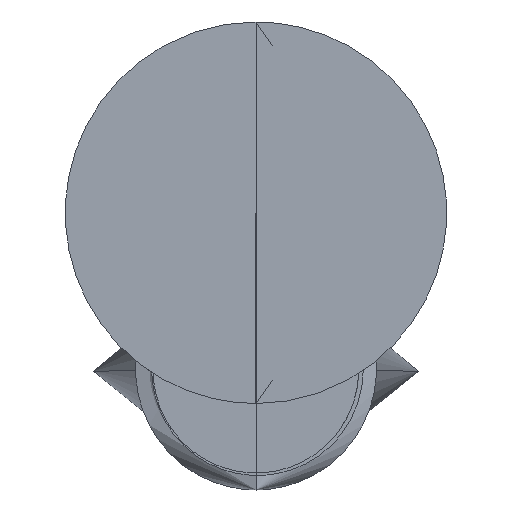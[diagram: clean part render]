
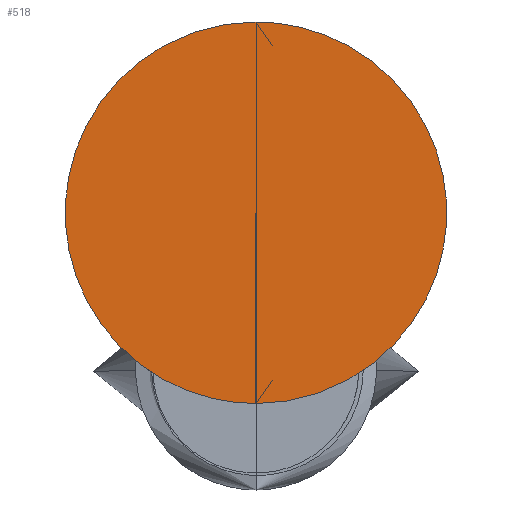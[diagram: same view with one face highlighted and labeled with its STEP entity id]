
A CAD part, top view. The second image highlights one B-rep face of the part: STEP entity #518.
In plain terms, the highlighted planar face has unit normal (0, 0, 1).
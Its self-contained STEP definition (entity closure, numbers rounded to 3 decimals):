
#518=ADVANCED_FACE($,(#663),#2471,.T.);
#663=FACE_OUTER_BOUND($,#820,.T.);
#820=EDGE_LOOP($,(#1367,#1368));
#1367=ORIENTED_EDGE($,*,*,#1888,.T.);
#1368=ORIENTED_EDGE($,*,*,#1889,.T.);
#1888=EDGE_CURVE($,#2390,#2391,#2826,.T.);
#1889=EDGE_CURVE($,#2391,#2390,#2827,.T.);
#2390=VERTEX_POINT($,#7784);
#2391=VERTEX_POINT($,#7785);
#2471=PLANE($,#3561);
#2826=(
BOUNDED_CURVE()
B_SPLINE_CURVE(2,(#7773,#7774,#7775,#7776,#7777),.UNSPECIFIED.,.F.,.F.)
B_SPLINE_CURVE_WITH_KNOTS((3,2,3),(-17.047,-12.785,-8.523),
.UNSPECIFIED.)
CURVE()
GEOMETRIC_REPRESENTATION_ITEM()
RATIONAL_B_SPLINE_CURVE((1.,0.707,1.,0.707,
1.))
REPRESENTATION_ITEM($)
);
#2827=(
BOUNDED_CURVE()
B_SPLINE_CURVE(2,(#7778,#7779,#7780,#7781,#7782),.UNSPECIFIED.,.F.,.F.)
B_SPLINE_CURVE_WITH_KNOTS((3,2,3),(-8.523,-4.262,0.),
.UNSPECIFIED.)
CURVE()
GEOMETRIC_REPRESENTATION_ITEM()
RATIONAL_B_SPLINE_CURVE((1.,0.707,1.,0.707,
1.))
REPRESENTATION_ITEM($)
);
#3561=AXIS2_PLACEMENT_3D($,#7783,#3663,$);
#3663=DIRECTION($,(0.,0.,1.));
#7773=CARTESIAN_POINT($,(0.,156.035,601.608));
#7774=CARTESIAN_POINT($,(-65.819,156.035,601.608));
#7775=CARTESIAN_POINT($,(-65.819,90.217,601.608));
#7776=CARTESIAN_POINT($,(-65.819,24.398,601.608));
#7777=CARTESIAN_POINT($,(0.,24.398,601.608));
#7778=CARTESIAN_POINT($,(0.,24.398,601.608));
#7779=CARTESIAN_POINT($,(65.819,24.398,601.608));
#7780=CARTESIAN_POINT($,(65.819,90.217,601.608));
#7781=CARTESIAN_POINT($,(65.819,156.035,601.608));
#7782=CARTESIAN_POINT($,(0.,156.035,601.608));
#7783=CARTESIAN_POINT($,(-67.135,23.082,601.608));
#7784=CARTESIAN_POINT($,(0.,156.035,601.608));
#7785=CARTESIAN_POINT($,(0.,24.398,601.608));
